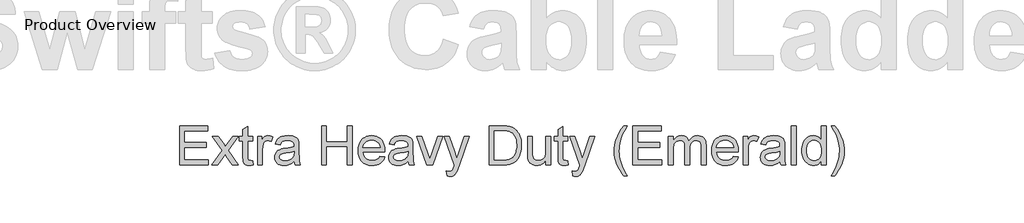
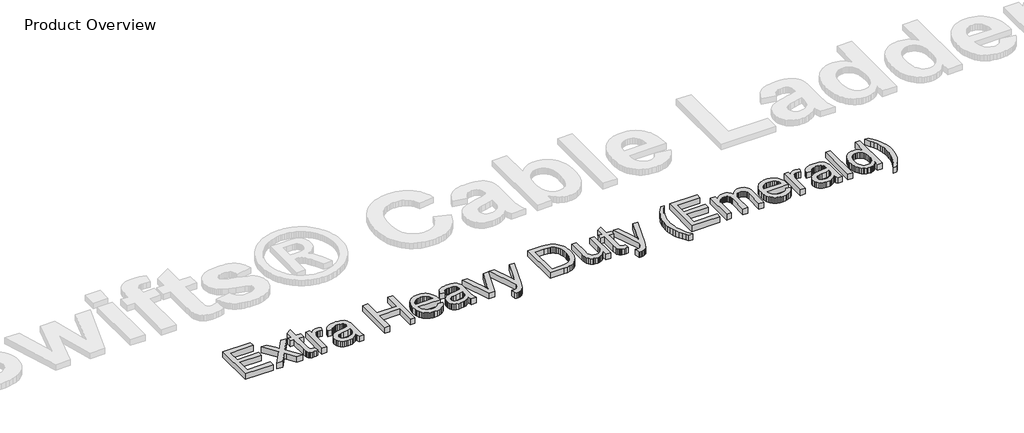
# One storey, part 10 of 11: 1 proxy.
"""IFC4 building model written with IfcOpenShell, lengths in millimetres."""

from ifc_helpers import new_model, si_unit, origin, origin_with_axes, place, context, project, spatial, polyline, outline, extrude, element, save

model = new_model("IFC4")

# Units and contexts
model_context = context("Model", 3, world=origin())
ifc_project = project(units=[si_unit("LENGTHUNIT", "METRE", prefix="MILLI")], contexts=[model_context])

# Site, building, storey
site = spatial("IfcSite", under=ifc_project)
building = spatial("IfcBuilding", under=site)
storey = spatial("IfcBuildingStorey", under=building, Name="Product Overview", Elevation=0.0)

# Proxy
placement = place(None, origin())
element("IfcBuildingElementProxy", 1, Name="1000mm", ObjectType="1000mm", at=placement, inside=storey, context=model_context, shape_type="SweptSolid", body=[
    extrude(outline(polyline([(-6838.0510787, -2802.9625714), (-6838.0510787, -1823.568632), (-6134.1116848, -1823.568632), (-6134.1116848, -1945.9928744), (-6715.6268363, -1945.9928744), (-6715.6268363, -2236.7504502), (-6164.7177454, -2236.7504502), (-6164.7177454, -2359.1746926), (-6715.6268363, -2359.1746926), (-6715.6268363, -2680.538329), (-6118.8086545, -2680.538329), (-6118.8086545, -2802.9625714), (-6838.0510787, -2802.9625714)])), origin_with_axes(), (0.0, 0.0, 1.0), 150.0),
    extrude(outline(polyline([(-6026.9904726, -2802.9625714), (-5765.4042984, -2441.4284805), (-6011.6874423, -2083.7201471), (-5864.3957757, -2083.7201471), (-5745.558181, -2255.879238), (-5690.0846961, -2337.1765865), (-5642.0236166, -2270.7040486), (-5506.6874423, -2083.7201471), (-5359.3957757, -2083.7201471), (-5618.1126317, -2441.4284805), (-5368.9601696, -2802.9625714), (-5516.2518363, -2802.9625714), (-5666.1737113, -2585.6117191), (-5693.6713439, -2545.9194843), (-5879.698806, -2802.9625714), (-6026.9904726, -2802.9625714)])), origin_with_axes(), (0.0, 0.0, 1.0), 150.0),
    extrude(outline(polyline([(-5001.6874423, -2700.8626661), (-4986.384412, -2806.5492191), (-5034.8639338, -2815.336506), (-5077.963484, -2818.2656017), (-5136.7247293, -2813.1845174), (-5160.5012148, -2806.833162), (-5180.541609, -2797.9412646), (-5211.5063344, -2774.4487219), (-5231.7111166, -2744.6197683), (-5238.1969712, -2723.5631573), (-5242.8297245, -2693.3904833), (-5246.5359272, -2605.6969464), (-5246.5359272, -2206.1443896), (-5338.354109, -2206.1443896), (-5338.354109, -2083.7201471), (-5246.5359272, -2083.7201471), (-5246.5359272, -1908.9308479), (-5124.1116848, -1836.9587835), (-5124.1116848, -2083.7201471), (-5001.6874423, -2083.7201471), (-5001.6874423, -2206.1443896), (-5124.1116848, -2206.1443896), (-5124.1116848, -2602.1102986), (-5122.4976933, -2642.4003081), (-5117.6557189, -2665.2352986), (-5109.197208, -2677.8782319), (-5096.7336071, -2687.5920695), (-5079.0693671, -2693.7790368), (-5055.0089386, -2695.8413593), (-5001.6874423, -2700.8626661)])), origin_with_axes(), (0.0, 0.0, 1.0), 150.0),
    extrude(outline(polyline([(-4879.2631999, -2802.9625714), (-4879.2631999, -2083.7201471), (-4772.1419878, -2083.7201471), (-4772.1419878, -2190.1240297), (-4732.5693079, -2128.4336888), (-4713.9486284, -2107.0931348), (-4696.105056, -2092.0889918), (-4659.5212492, -2074.3350856), (-4619.5899045, -2068.4171168), (-4589.2229537, -2070.7783266), (-4558.6168931, -2077.8619558), (-4527.7717226, -2089.6680046), (-4496.6874423, -2106.1964729), (-4537.5752264, -2215.9478933), (-4580.6149992, -2197.1179928), (-4623.6547719, -2190.8413593), (-4660.20869, -2196.8788829), (-4692.877073, -2214.991454), (-4719.2688225, -2243.8041907), (-4736.9928401, -2281.9422115), (-4751.8774281, -2350.3276282), (-4756.8389575, -2424.9299009), (-4756.8389575, -2802.9625714), (-4879.2631999, -2802.9625714)])), origin_with_axes(), (0.0, 0.0, 1.0), 150.0),
    extrude(outline(polyline([(-3961.0813817, -2711.1443896), (-3990.1108118, -2738.3879679), (-4019.5736284, -2761.2976803), (-4049.4698317, -2779.8735266), (-4079.7994215, -2794.115507), (-4110.9061184, -2804.6811734), (-4143.1336426, -2812.228078), (-4210.9511734, -2818.2656017), (-4265.4607467, -2814.6341209), (-4313.2602998, -2803.7396784), (-4354.3498328, -2785.5822743), (-4388.7293458, -2760.1619085), (-4415.8757857, -2729.0925726), (-4435.2661, -2693.9882579), (-4446.9002886, -2654.8489646), (-4450.7783514, -2611.6746926), (-4444.9201601, -2560.9236272), (-4427.3455863, -2514.835204), (-4400.2365072, -2475.382079), (-4365.7748003, -2444.5369085), (-4325.2755697, -2421.2236983), (-4280.0539196, -2404.366454), (-4235.99793, -2394.9813924), (-4174.1282567, -2385.9549956), (-4048.9542511, -2366.5870979), (-4000.6241729, -2355.6478223), (-3961.7987113, -2343.8716623), (-3961.0813817, -2316.6131396), (-3963.1885373, -2286.9336296), (-3969.5100039, -2261.9765392), (-3980.0457816, -2241.7418683), (-3994.7958704, -2226.2296168), (-4020.290958, -2210.7472541), (-4051.3453495, -2199.6884236), (-4087.9590451, -2193.0531254), (-4130.1320446, -2190.8413593), (-4169.3460598, -2192.3133793), (-4203.0605484, -2196.7294393), (-4231.2755105, -2204.0895393), (-4253.9909461, -2214.3936793), (-4272.6564587, -2228.4488551), (-4288.7216516, -2247.0620624), (-4302.186525, -2270.2333011), (-4313.0510787, -2297.9625714), (-4435.4753211, -2282.6595411), (-4426.1575092, -2247.3908384), (-4414.2244333, -2215.7087835), (-4399.6760935, -2187.6133763), (-4382.5124897, -2163.1046168), (-4361.9938758, -2141.689341), (-4337.3805058, -2122.8743848), (-4308.6723796, -2106.6597482), (-4275.8694973, -2093.0454312), (-4239.636883, -2082.2705437), (-4200.6395612, -2074.5741954), (-4158.8775317, -2069.9563865), (-4114.3507946, -2068.4171168), (-4031.5888983, -2073.8568659), (-3996.6414995, -2080.6565522), (-3965.9831336, -2090.176113), (-3916.5172837, -2114.7147612), (-3897.4557455, -2129.0688243), (-3882.1751317, -2144.8127134), (-3859.3999187, -2182.0241836), (-3844.6348855, -2227.9033858), (-3840.1515759, -2270.225829), (-3838.6571393, -2335.0245979), (-3838.6571393, -2487.3375714), (-3837.1029253, -2620.0136486), (-3832.4402833, -2700.0257816), (-3823.2345541, -2752.6000595), (-3808.0510787, -2802.9625714), (-3930.4753211, -2802.9625714), (-3950.0823287, -2760.4010183), (-3961.0813817, -2711.1443896)]), holes=[polyline([(-3961.0813817, -2466.2959047), (-4043.3351696, -2486.6800193), (-4158.5861166, -2503.8361509), (-4222.0996701, -2513.2212125), (-4263.9140048, -2523.6822683), (-4291.3219712, -2537.2517522), (-4311.6164196, -2555.9620979), (-4324.1696867, -2578.3786462), (-4328.354109, -2603.066738), (-4326.0750933, -2622.0909154), (-4319.238046, -2639.4712125), (-4307.8429673, -2655.2076294), (-4291.8898571, -2669.3001661), (-4271.5281591, -2680.9119381), (-4246.9073169, -2689.206061), (-4218.0273305, -2694.1825347), (-4184.8881999, -2695.8413593), (-4151.0541564, -2694.0106745), (-4119.1329916, -2688.5186201), (-4089.1247056, -2679.3651963), (-4061.0292984, -2666.5504028), (-4035.6836545, -2651.1352898), (-4013.9246583, -2634.1809071), (-3995.7523098, -2615.6872547), (-3981.166609, -2595.6543327), (-3972.6931538, -2577.7210941), (-3966.6406857, -2555.9620979), (-3961.7987113, -2500.9668327), (-3961.0813817, -2466.2959047)])]), origin_with_axes(), (0.0, 0.0, 1.0), 150.0),
    extrude(outline(polyline([(-3272.4450181, -2802.9625714), (-3272.4450181, -1823.568632), (-3150.0207757, -1823.568632), (-3150.0207757, -2221.4474199), (-2629.7177454, -2221.4474199), (-2629.7177454, -1823.568632), (-2507.2935029, -1823.568632), (-2507.2935029, -2802.9625714), (-2629.7177454, -2802.9625714), (-2629.7177454, -2343.8716623), (-3150.0207757, -2343.8716623), (-3150.0207757, -2802.9625714), (-3272.4450181, -2802.9625714)])), origin_with_axes(), (0.0, 0.0, 1.0), 150.0),
    extrude(outline(polyline([(-1804.7887681, -2588.7201471), (-1684.7556242, -2604.0231774), (-1703.1596103, -2652.0992013), (-1728.004618, -2694.4664776), (-1759.2906472, -2731.1250063), (-1797.017698, -2762.0747873), (-1840.7972168, -2786.6582686), (-1890.2406502, -2804.2178981), (-1945.3479981, -2814.7536758), (-2006.1192605, -2818.2656017), (-2045.1352628, -2816.7506166), (-2082.0814705, -2812.2056615), (-2116.9578836, -2804.6307362), (-2149.764502, -2794.0258408), (-2180.5013258, -2780.3909753), (-2209.168355, -2763.7261397), (-2235.7655895, -2744.031334), (-2260.2930295, -2721.3065581), (-2282.3172882, -2695.8469634), (-2301.404979, -2667.947701), (-2317.5561021, -2637.6087709), (-2330.7706573, -2604.8301732), (-2341.0486447, -2569.6119078), (-2348.3900643, -2531.9539747), (-2354.2631999, -2449.3191055), (-2348.3302868, -2363.8821677), (-2340.9141454, -2324.9633038), (-2330.5315475, -2288.5775098), (-2317.1824929, -2254.7247858), (-2300.8669819, -2223.4051317), (-2281.5850143, -2194.6185476), (-2259.3365901, -2168.3650335), (-2234.72322, -2144.9397405), (-2208.3464149, -2124.63782), (-2180.2061746, -2107.4592718), (-2150.3024992, -2093.404096), (-2118.6353886, -2082.4722926), (-2085.2048429, -2074.6638616), (-2050.0108621, -2069.978803), (-2013.0534461, -2068.4171168), (-1977.3046557, -2069.9750669), (-1943.2258982, -2074.6489173), (-1910.8171735, -2082.4386678), (-1880.0784816, -2093.3443185), (-1851.0098226, -2107.3658695), (-1823.6111965, -2124.5033207), (-1797.8826032, -2144.7566721), (-1773.8240427, -2168.1259236), (-1752.0519702, -2194.3196603), (-1733.1828407, -2223.046467), (-1717.2166541, -2254.3063436), (-1704.1534106, -2288.0992901), (-1693.9931101, -2324.4253066), (-1686.7357526, -2363.2843931), (-1680.9298666, -2448.6017759), (-1681.6471961, -2481.598935), (-2231.8389575, -2481.598935), (-2224.747856, -2530.4520659), (-2210.6478472, -2573.2377844), (-2189.5389309, -2609.9560906), (-2161.4211071, -2640.6069843), (-2127.84859, -2664.7720233), (-2090.3755934, -2682.0327655), (-2049.0021174, -2692.3892108), (-2003.728162, -2695.8413593), (-1969.8642297, -2694.2423121), (-1938.5707283, -2689.4451708), (-1909.8476578, -2681.4499352), (-1883.6950181, -2670.2566055), (-1860.1128093, -2655.5662942), (-1839.1010314, -2637.080114), (-1820.6596843, -2614.798065), (-1804.7887681, -2588.7201471)]), holes=[polyline([(-2231.8389575, -2359.1746926), (-1803.354109, -2359.1746926), (-1809.6456869, -2324.5336533), (-1819.912466, -2294.4954786), (-1834.1544464, -2269.0601684), (-1852.3716279, -2248.2277229), (-1885.7573405, -2223.1211888), (-1923.7459177, -2205.1879502), (-1966.3373595, -2194.428007), (-2013.5316658, -2190.8413593), (-2056.5789107, -2193.7032053), (-2096.0544523, -2202.2887433), (-2131.9582905, -2216.5979732), (-2164.2904253, -2236.6308952), (-2191.4219209, -2261.4609586), (-2211.7238415, -2290.1616126), (-2225.196187, -2322.7328572), (-2231.8389575, -2359.1746926)])]), origin_with_axes(), (0.0, 0.0, 1.0), 150.0),
    extrude(outline(polyline([(-1099.4147151, -2711.1443896), (-1128.4441451, -2738.3879679), (-1157.9069618, -2761.2976803), (-1187.803165, -2779.8735266), (-1218.1327548, -2794.115507), (-1249.2394517, -2804.6811734), (-1281.466976, -2812.228078), (-1349.2845067, -2818.2656017), (-1403.79408, -2814.6341209), (-1451.5936332, -2803.7396784), (-1492.6831662, -2785.5822743), (-1527.0626791, -2760.1619085), (-1554.2091191, -2729.0925726), (-1573.5994333, -2693.9882579), (-1585.2336219, -2654.8489646), (-1589.1116848, -2611.6746926), (-1583.2534935, -2560.9236272), (-1565.6789196, -2514.835204), (-1538.5698405, -2475.382079), (-1504.1081336, -2444.5369085), (-1463.608903, -2421.2236983), (-1418.3872529, -2404.366454), (-1374.3312634, -2394.9813924), (-1312.4615901, -2385.9549956), (-1187.2875844, -2366.5870979), (-1138.9575063, -2355.6478223), (-1100.1320446, -2343.8716623), (-1099.4147151, -2316.6131396), (-1101.5218706, -2286.9336296), (-1107.8433372, -2261.9765392), (-1118.3791149, -2241.7418683), (-1133.1292037, -2226.2296168), (-1158.6242913, -2210.7472541), (-1189.6786829, -2199.6884236), (-1226.2923784, -2193.0531254), (-1268.4653779, -2190.8413593), (-1307.6793931, -2192.3133793), (-1341.3938817, -2196.7294393), (-1369.6088439, -2204.0895393), (-1392.3242795, -2214.3936793), (-1410.989792, -2228.4488551), (-1427.054985, -2247.0620624), (-1440.5198583, -2270.2333011), (-1451.384412, -2297.9625714), (-1573.8086545, -2282.6595411), (-1564.4908426, -2247.3908384), (-1552.5577667, -2215.7087835), (-1538.0094268, -2187.6133763), (-1520.845823, -2163.1046168), (-1500.3272092, -2141.689341), (-1475.7138391, -2122.8743848), (-1447.0057129, -2106.6597482), (-1414.2028306, -2093.0454312), (-1377.9702164, -2082.2705437), (-1338.9728945, -2074.5741954), (-1297.210865, -2069.9563865), (-1252.6841279, -2068.4171168), (-1169.9222316, -2073.8568659), (-1134.9748328, -2080.6565522), (-1104.316467, -2090.176113), (-1054.8506171, -2114.7147612), (-1035.7890788, -2129.0688243), (-1020.5084651, -2144.8127134), (-997.733252, -2182.0241836), (-982.9682189, -2227.9033858), (-978.4849092, -2270.225829), (-976.9904726, -2335.0245979), (-976.9904726, -2487.3375714), (-975.4362586, -2620.0136486), (-970.7736166, -2700.0257816), (-961.5678874, -2752.6000595), (-946.384412, -2802.9625714), (-1068.8086545, -2802.9625714), (-1088.415662, -2760.4010183), (-1099.4147151, -2711.1443896)]), holes=[polyline([(-1099.4147151, -2466.2959047), (-1181.6685029, -2486.6800193), (-1296.9194499, -2503.8361509), (-1360.4330034, -2513.2212125), (-1402.2473382, -2523.6822683), (-1429.6553046, -2537.2517522), (-1449.9497529, -2555.9620979), (-1462.50302, -2578.3786462), (-1466.6874423, -2603.066738), (-1464.4084266, -2622.0909154), (-1457.5713794, -2639.4712125), (-1446.1763007, -2655.2076294), (-1430.2231904, -2669.3001661), (-1409.8614924, -2680.9119381), (-1385.2406502, -2689.206061), (-1356.3606638, -2694.1825347), (-1323.2215333, -2695.8413593), (-1289.3874897, -2694.0106745), (-1257.4663249, -2688.5186201), (-1227.4580389, -2679.3651963), (-1199.3626317, -2666.5504028), (-1174.0169878, -2651.1352898), (-1152.2579916, -2634.1809071), (-1134.0856431, -2615.6872547), (-1119.4999423, -2595.6543327), (-1111.0264871, -2577.7210941), (-1104.974019, -2555.9620979), (-1100.1320446, -2500.9668327), (-1099.4147151, -2466.2959047)])]), origin_with_axes(), (0.0, 0.0, 1.0), 150.0),
    extrude(outline(polyline([(-632.1940711, -2802.9625714), (-885.1722908, -2083.7201471), (-755.5747529, -2083.7201471), (-602.3053401, -2514.5960941), (-556.1571393, -2659.4966623), (-510.9653779, -2522.725829), (-356.7395257, -2083.7201471), (-227.1419878, -2083.7201471), (-477.0117795, -2802.9625714), (-632.1940711, -2802.9625714)])), origin_with_axes(), (0.0, 0.0, 1.0), 150.0),
    extrude(outline(polyline([(-120.0207757, -3078.4171168), (-135.323806, -2960.5359615), (-101.9679821, -2968.6059189), (-73.1552454, -2971.2959047), (-40.4569736, -2967.9184781), (-15.0515522, -2957.7861983), (4.7347878, -2941.6163948), (20.5758152, -2920.1263971), (34.0855217, -2888.5041197), (54.051194, -2829.9819843), (63.615588, -2800.332363), (-196.5359272, -2083.7201471), (-67.416609, -2083.7201471), (70.5497736, -2483.0335941), (95.955195, -2560.9834047), (118.6108531, -2642.7589729), (166.6719327, -2501.6841623), (308.4640728, -2083.7201471), (436.6269516, -2083.7201471), (186.2789402, -2820.1784805), (149.0973588, -2918.0939634), (121.2410614, -2979.9038593), (87.945015, -3030.8940344), (69.6381673, -3050.5159864), (50.2254364, -3066.2225146), (29.2883803, -3078.2527288), (6.4085567, -3086.845739), (-18.4140344, -3092.0015451), (-45.1793931, -3093.7201471), (-80.6274281, -3089.8943896), (-120.0207757, -3078.4171168)])), origin_with_axes(), (0.0, 0.0, 1.0), 150.0),
    extrude(outline(polyline([(935.8883152, -2802.9625714), (935.8883152, -1823.568632), (1273.7505311, -1823.568632), (1374.7146647, -1827.0955022), (1448.5398304, -1837.676113), (1489.0988384, -1849.3177738), (1526.6091959, -1864.8748583), (1561.0709028, -1884.3473666), (1592.4839592, -1907.7352986), (1628.783823, -1942.7648915), (1660.2118238, -1982.3375714), (1686.7679613, -2026.4533384), (1708.4522357, -2075.1121926), (1725.2945356, -2127.8658029), (1737.3247499, -2184.2658384), (1744.5428784, -2244.3122991), (1746.9489213, -2308.005185), (1745.3199855, -2362.1411491), (1740.4331779, -2413.1238522), (1732.2884987, -2460.953294), (1720.8859478, -2505.6294748), (1691.1167717, -2584.3862811), (1673.4525316, -2618.1829638), (1653.9351902, -2648.2584994), (1611.1345274, -2698.6807887), (1564.5081069, -2737.0878081), (1510.9773896, -2765.5717688), (1447.4638361, -2786.224882), (1373.8478915, -2798.778149), (1290.0100008, -2802.9625714), (935.8883152, -2802.9625714)]), holes=[polyline([(1058.3125577, -2680.538329), (1274.9460804, -2680.538329), (1364.5524961, -2676.1147968), (1401.2409135, -2670.5853815), (1432.5194705, -2662.8442002), (1483.808533, -2641.5036462), (1505.0594208, -2628.0985503), (1523.381213, -2612.8702418), (1545.9696215, -2588.3241214), (1565.9128773, -2559.8775217), (1583.2109804, -2527.5304425), (1597.8639308, -2491.2828839), (1609.5280081, -2451.0601241), (1617.8594918, -2406.7874412), (1622.8583821, -2358.4648352), (1624.5246789, -2306.0923062), (1621.259335, -2235.0169038), (1611.4633034, -2172.6690108), (1595.1365841, -2119.0486272), (1572.279177, -2074.1557532), (1544.7441835, -2036.9741718), (1514.3847049, -2006.4876661), (1481.2007413, -1982.6962361), (1445.1922925, -1965.599882), (1414.0781235, -1957.0218162), (1374.7744421, -1950.8946263), (1271.5985425, -1945.9928744), (1058.3125577, -1945.9928744), (1058.3125577, -2680.538329)])]), origin_with_axes(), (0.0, 0.0, 1.0), 150.0),
    extrude(outline(polyline([(2359.0701334, -2802.9625714), (2359.0701334, -2679.3427797), (2337.83419, -2711.9028161), (2314.775034, -2740.1215143), (2289.8926654, -2763.9988743), (2263.1870842, -2783.5348962), (2234.6582904, -2798.7295798), (2204.306284, -2809.5829253), (2172.131065, -2816.0949326), (2138.1326334, -2818.2656017), (2078.504615, -2812.1683005), (2050.2373475, -2804.5466741), (2023.0012414, -2793.8763971), (1976.4345984, -2766.3787646), (1958.307083, -2750.2986272), (1943.6167717, -2732.6642759), (1921.5289994, -2691.7167144), (1907.1525198, -2642.519863), (1901.7725482, -2596.1325524), (1899.9792243, -2528.7035752), (1899.9792243, -2083.7201471), (2022.4034667, -2083.7201471), (2022.4034667, -2471.0781017), (2024.2565681, -2548.5496926), (2029.8158721, -2595.8934426), (2037.1460833, -2617.9587983), (2047.6594445, -2637.528445), (2061.3559555, -2654.6023826), (2078.2356164, -2669.1806111), (2097.7903187, -2680.8446884), (2119.511954, -2689.1761722), (2143.4005223, -2694.1750625), (2169.4560236, -2695.8413593), (2196.2886319, -2694.1377016), (2222.2694114, -2689.0267286), (2247.398362, -2680.5084402), (2271.6754838, -2668.5828365), (2293.7856726, -2653.720665), (2312.4138242, -2636.3926732), (2327.5599387, -2616.598861), (2339.224016, -2594.3392286), (2347.9066924, -2568.1940611), (2354.1086041, -2536.7436438), (2359.0701334, -2457.92706), (2359.0701334, -2083.7201471), (2481.4943758, -2083.7201471), (2481.4943758, -2802.9625714), (2359.0701334, -2802.9625714)])), origin_with_axes(), (0.0, 0.0, 1.0), 150.0),
    extrude(outline(polyline([(2909.9792243, -2700.8626661), (2925.2822546, -2806.5492191), (2876.8027328, -2815.336506), (2833.7031827, -2818.2656017), (2774.9419374, -2813.1845174), (2751.1654518, -2806.833162), (2731.1250577, -2797.9412646), (2700.1603323, -2774.4487219), (2679.9555501, -2744.6197683), (2673.4696954, -2723.5631573), (2668.8369421, -2693.3904833), (2665.1307395, -2605.6969464), (2665.1307395, -2206.1443896), (2573.3125577, -2206.1443896), (2573.3125577, -2083.7201471), (2665.1307395, -2083.7201471), (2665.1307395, -1908.9308479), (2787.5549819, -1836.9587835), (2787.5549819, -2083.7201471), (2909.9792243, -2083.7201471), (2909.9792243, -2206.1443896), (2787.5549819, -2206.1443896), (2787.5549819, -2602.1102986), (2789.1689734, -2642.4003081), (2794.0109478, -2665.2352986), (2802.4694587, -2677.8782319), (2814.9330596, -2687.5920695), (2832.5972996, -2693.7790368), (2856.6577281, -2695.8413593), (2909.9792243, -2700.8626661)])), origin_with_axes(), (0.0, 0.0, 1.0), 150.0),
    extrude(outline(polyline([(3032.4034667, -3078.4171168), (3017.1004364, -2960.5359615), (3050.4562603, -2968.6059189), (3079.2689971, -2971.2959047), (3111.9672688, -2967.9184781), (3137.3726902, -2957.7861983), (3157.1590302, -2941.6163948), (3173.0000577, -2920.1263971), (3186.5097641, -2888.5041197), (3206.4754364, -2829.9819843), (3216.0398304, -2800.332363), (2955.8883152, -2083.7201471), (3085.0076334, -2083.7201471), (3222.974016, -2483.0335941), (3248.3794374, -2560.9834047), (3271.0350955, -2642.7589729), (3319.0961751, -2501.6841623), (3460.8883152, -2083.7201471), (3589.051194, -2083.7201471), (3338.7031827, -2820.1784805), (3301.5216012, -2918.0939634), (3273.6653039, -2979.9038593), (3240.3692575, -3030.8940344), (3222.0624097, -3050.5159864), (3202.6496789, -3066.2225146), (3181.7126228, -3078.2527288), (3158.8327991, -3086.845739), (3134.010208, -3092.0015451), (3107.2448493, -3093.7201471), (3071.7968143, -3089.8943896), (3032.4034667, -3078.4171168)])), origin_with_axes(), (0.0, 0.0, 1.0), 150.0),
    extrude(outline(polyline([(4317.8580122, -3078.4171168), (4268.4369954, -3014.4701767), (4222.9911798, -2945.2927087), (4181.5205655, -2870.8847127), (4144.0251524, -2791.2461888), (4112.9558164, -2708.2451826), (4090.7634336, -2623.7497399), (4077.4480039, -2537.7598607), (4073.0095274, -2450.2755449), (4076.3271765, -2373.3867842), (4086.2801239, -2298.1419038), (4102.8683697, -2224.5409035), (4126.0919137, -2152.5837835), (4161.3905051, -2070.060997), (4205.1177186, -1987.717543), (4257.2735543, -1905.5534213), (4317.8580122, -1823.568632), (4409.676194, -1823.568632), (4337.6443522, -1939.9553507), (4295.1425766, -2017.4867191), (4256.0481164, -2109.5440108), (4226.2789402, -2205.42706), (4212.7841782, -2266.5943481), (4203.1450624, -2327.9110799), (4197.3615929, -2389.3772553), (4195.4337698, -2450.9928744), (4198.7813077, -2529.47321), (4208.8239213, -2607.9386012), (4225.5616107, -2686.3890481), (4248.9943758, -2764.8245505), (4279.1222167, -2843.2451087), (4315.9451334, -2921.6507224), (4359.4631258, -3000.0413918), (4409.676194, -3078.4171168), (4317.8580122, -3078.4171168)])), origin_with_axes(), (0.0, 0.0, 1.0), 150.0),
    extrude(outline(polyline([(4547.4034667, -2802.9625714), (4547.4034667, -1823.568632), (5251.3428607, -1823.568632), (5251.3428607, -1945.9928744), (4669.8277092, -1945.9928744), (4669.8277092, -2236.7504502), (5220.7368001, -2236.7504502), (5220.7368001, -2359.1746926), (4669.8277092, -2359.1746926), (4669.8277092, -2680.538329), (5266.645891, -2680.538329), (5266.645891, -2802.9625714), (4547.4034667, -2802.9625714)])), origin_with_axes(), (0.0, 0.0, 1.0), 150.0),
    extrude(outline(polyline([(5434.9792243, -2802.9625714), (5434.9792243, -2083.7201471), (5557.4034667, -2083.7201471), (5557.4034667, -2202.0795221), (5574.4998209, -2173.4237012), (5594.2263834, -2147.7119203), (5616.5831542, -2124.9441794), (5641.5701334, -2105.1204786), (5668.783823, -2089.0627578), (5697.8207253, -2077.5929573), (5728.6808401, -2070.7110769), (5761.3641675, -2068.4171168), (5797.0961455, -2070.75591), (5829.4506969, -2077.7722897), (5858.4278216, -2089.4662557), (5884.0275198, -2105.8378081), (5906.1750695, -2126.4236716), (5924.7957489, -2150.7605709), (5939.8895581, -2178.8485059), (5951.4564971, -2210.6874767), (5972.9838556, -2177.3428611), (5996.0803725, -2148.4441942), (6020.7460478, -2123.9914761), (6046.9808815, -2103.9847068), (6074.7848736, -2088.4238862), (6104.158024, -2077.3090143), (6135.1003329, -2070.6400912), (6167.6118001, -2068.4171168), (6216.6218468, -2072.1158473), (6259.639203, -2083.2120387), (6296.6638686, -2101.705691), (6327.6958436, -2127.5968043), (6352.2270197, -2161.1842659), (6369.7492882, -2202.7669629), (6380.2626494, -2252.3448956), (6383.7671031, -2309.9180638), (6383.7671031, -2802.9625714), (6261.3428607, -2802.9625714), (6261.3428607, -2362.5222305), (6258.5034312, -2301.4595529), (6249.9851429, -2260.3027702), (6234.0245605, -2232.1176968), (6208.8582489, -2209.9701471), (6176.4887532, -2195.6235562), (6138.9186183, -2190.8413593), (6104.2252737, -2193.9049542), (6072.595524, -2203.095739), (6044.0293693, -2218.4137137), (6018.5268096, -2239.8588782), (5997.5523925, -2268.058896), (5982.5706661, -2303.6414303), (5973.5816302, -2346.6064812), (5970.5852849, -2396.9540486), (5970.5852849, -2802.9625714), (5848.1610425, -2802.9625714), (5848.1610425, -2348.8929691), (5846.3901352, -2311.8010539), (5841.0774132, -2279.670668), (5832.2228767, -2252.5018114), (5819.8265255, -2230.2944843), (5803.3951956, -2213.0337421), (5782.4357229, -2200.7046405), (5756.9481075, -2193.3071796), (5726.9323493, -2190.8413593), (5702.8868652, -2192.4852395), (5679.7679317, -2197.4168801), (5657.5755489, -2205.6362811), (5636.3097167, -2217.1434426), (5616.941819, -2231.8188095), (5600.4432395, -2249.5428271), (5586.8139781, -2270.3154951), (5576.0540349, -2294.1368138), (5567.8944114, -2322.2770541), (5562.0661088, -2356.0064871), (5557.4034667, -2440.2329312), (5557.4034667, -2802.9625714), (5434.9792243, -2802.9625714)])), origin_with_axes(), (0.0, 0.0, 1.0), 150.0),
    extrude(outline(polyline([(7070.9688077, -2588.7201471), (7191.0019516, -2604.0231774), (7172.5979654, -2652.0992013), (7147.7529578, -2694.4664776), (7116.4669285, -2731.1250063), (7078.7398777, -2762.0747873), (7034.9603589, -2786.6582686), (6985.5169256, -2804.2178981), (6930.4095777, -2814.7536758), (6869.6383152, -2818.2656017), (6830.6223129, -2816.7506166), (6793.6761052, -2812.2056615), (6758.7996922, -2804.6307362), (6725.9930738, -2794.0258408), (6695.25625, -2780.3909753), (6666.5892208, -2763.7261397), (6639.9919862, -2744.031334), (6615.4645463, -2721.3065581), (6593.4402876, -2695.8469634), (6574.3525967, -2667.947701), (6558.2014737, -2637.6087709), (6544.9869185, -2604.8301732), (6534.7089311, -2569.6119078), (6527.3675115, -2531.9539747), (6521.4943758, -2449.3191055), (6527.427289, -2363.8821677), (6534.8434304, -2324.9633038), (6545.2260283, -2288.5775098), (6558.5750828, -2254.7247858), (6574.8905939, -2223.4051317), (6594.1725615, -2194.6185476), (6616.4209857, -2168.3650335), (6641.0343557, -2144.9397405), (6667.4111609, -2124.63782), (6695.5514012, -2107.4592718), (6725.4550766, -2093.404096), (6757.1221872, -2082.4722926), (6790.5527328, -2074.6638616), (6825.7467137, -2069.978803), (6862.7041296, -2068.4171168), (6898.45292, -2069.9750669), (6932.5316776, -2074.6489173), (6964.9404023, -2082.4386678), (6995.6790941, -2093.3443185), (7024.7477531, -2107.3658695), (7052.1463793, -2124.5033207), (7077.8749726, -2144.7566721), (7101.933533, -2168.1259236), (7123.7056056, -2194.3196603), (7142.5747351, -2223.046467), (7158.5409216, -2254.3063436), (7171.6041651, -2288.0992901), (7181.7644657, -2324.4253066), (7189.0218232, -2363.2843931), (7194.8277092, -2448.6017759), (7194.1103796, -2481.598935), (6643.9186183, -2481.598935), (6651.0097197, -2530.4520659), (6665.1097286, -2573.2377844), (6686.2186449, -2609.9560906), (6714.3364686, -2640.6069843), (6747.9089858, -2664.7720233), (6785.3819824, -2682.0327655), (6826.7554583, -2692.3892108), (6872.0294137, -2695.8413593), (6905.893346, -2694.2423121), (6937.1868474, -2689.4451708), (6965.909918, -2681.4499352), (6992.0625577, -2670.2566055), (7015.6447665, -2655.5662942), (7036.6565444, -2637.080114), (7055.0978915, -2614.798065), (7070.9688077, -2588.7201471)]), holes=[polyline([(6643.9186183, -2359.1746926), (7072.4034667, -2359.1746926), (7066.1118889, -2324.5336533), (7055.8451097, -2294.4954786), (7041.6031294, -2269.0601684), (7023.3859478, -2248.2277229), (6990.0002352, -2223.1211888), (6952.011658, -2205.1879502), (6909.4202163, -2194.428007), (6862.2259099, -2190.8413593), (6819.178665, -2193.7032053), (6779.7031235, -2202.2887433), (6743.7992853, -2216.5979732), (6711.4671505, -2236.6308952), (6684.3356548, -2261.4609586), (6664.0337343, -2290.1616126), (6650.5613887, -2322.7328572), (6643.9186183, -2359.1746926)])]), origin_with_axes(), (0.0, 0.0, 1.0), 150.0),
    extrude(outline(polyline([(7317.2519516, -2802.9625714), (7317.2519516, -2083.7201471), (7424.3731637, -2083.7201471), (7424.3731637, -2190.1240297), (7463.9458436, -2128.4336888), (7482.5665231, -2107.0931348), (7500.4100955, -2092.0889918), (7536.9939024, -2074.3350856), (7576.9252471, -2068.4171168), (7607.2921978, -2070.7783266), (7637.8982584, -2077.8619558), (7668.7434289, -2089.6680046), (7699.8277092, -2106.1964729), (7658.9399251, -2215.9478933), (7615.9001524, -2197.1179928), (7572.8603796, -2190.8413593), (7536.3064615, -2196.8788829), (7503.6380785, -2214.991454), (7477.246329, -2243.8041907), (7459.5223114, -2281.9422115), (7444.6377234, -2350.3276282), (7439.676194, -2424.9299009), (7439.676194, -2802.9625714), (7317.2519516, -2802.9625714)])), origin_with_axes(), (0.0, 0.0, 1.0), 150.0),
    extrude(outline(polyline([(8235.4337698, -2711.1443896), (8206.4043397, -2738.3879679), (8176.9415231, -2761.2976803), (8147.0453199, -2779.8735266), (8116.71573, -2794.115507), (8085.6090332, -2804.6811734), (8053.3815089, -2812.228078), (7985.5639781, -2818.2656017), (7931.0544048, -2814.6341209), (7883.2548517, -2803.7396784), (7842.1653187, -2785.5822743), (7807.7858058, -2760.1619085), (7780.6393658, -2729.0925726), (7761.2490515, -2693.9882579), (7749.6148629, -2654.8489646), (7745.7368001, -2611.6746926), (7751.5949914, -2560.9236272), (7769.1695652, -2514.835204), (7796.2786443, -2475.382079), (7830.7403512, -2444.5369085), (7871.2395818, -2421.2236983), (7916.4612319, -2404.366454), (7960.5172215, -2394.9813924), (8022.3868948, -2385.9549956), (8147.5609005, -2366.5870979), (8195.8909786, -2355.6478223), (8234.7164402, -2343.8716623), (8235.4337698, -2316.6131396), (8233.3266142, -2286.9336296), (8227.0051476, -2261.9765392), (8216.4693699, -2241.7418683), (8201.7192811, -2226.2296168), (8176.2241935, -2210.7472541), (8145.169802, -2199.6884236), (8108.5561064, -2193.0531254), (8066.3831069, -2190.8413593), (8027.1690917, -2192.3133793), (7993.4546031, -2196.7294393), (7965.239641, -2204.0895393), (7942.5242054, -2214.3936793), (7923.8586928, -2228.4488551), (7907.7934999, -2247.0620624), (7894.3286266, -2270.2333011), (7883.4640728, -2297.9625714), (7761.0398304, -2282.6595411), (7770.3576423, -2247.3908384), (7782.2907182, -2215.7087835), (7796.839058, -2187.6133763), (7814.0026618, -2163.1046168), (7834.5212757, -2141.689341), (7859.1346457, -2122.8743848), (7887.8427719, -2106.6597482), (7920.6456542, -2093.0454312), (7956.8782685, -2082.2705437), (7995.8755903, -2074.5741954), (8037.6376198, -2069.9563865), (8082.1643569, -2068.4171168), (8164.9262532, -2073.8568659), (8199.873652, -2080.6565522), (8230.5320179, -2090.176113), (8279.9978678, -2114.7147612), (8299.059406, -2129.0688243), (8314.3400198, -2144.8127134), (8337.1152328, -2182.0241836), (8351.880266, -2227.9033858), (8356.3635757, -2270.225829), (8357.8580122, -2335.0245979), (8357.8580122, -2487.3375714), (8359.4122262, -2620.0136486), (8364.0748683, -2700.0257816), (8373.2805974, -2752.6000595), (8388.4640728, -2802.9625714), (8266.0398304, -2802.9625714), (8246.4328228, -2760.4010183), (8235.4337698, -2711.1443896)]), holes=[polyline([(8235.4337698, -2466.2959047), (8153.1799819, -2486.6800193), (8037.9290349, -2503.8361509), (7974.4154814, -2513.2212125), (7932.6011467, -2523.6822683), (7905.1931803, -2537.2517522), (7884.8987319, -2555.9620979), (7872.3454649, -2578.3786462), (7868.1610425, -2603.066738), (7870.4400583, -2622.0909154), (7877.2771055, -2639.4712125), (7888.6721842, -2655.2076294), (7904.6252944, -2669.3001661), (7924.9869924, -2680.9119381), (7949.6078346, -2689.206061), (7978.487821, -2694.1825347), (8011.6269516, -2695.8413593), (8045.4609952, -2694.0106745), (8077.3821599, -2688.5186201), (8107.3904459, -2679.3651963), (8135.4858531, -2666.5504028), (8160.8314971, -2651.1352898), (8182.5904933, -2634.1809071), (8200.7628417, -2615.6872547), (8215.3485425, -2595.6543327), (8223.8219978, -2577.7210941), (8229.8744658, -2555.9620979), (8234.7164402, -2500.9668327), (8235.4337698, -2466.2959047)])]), origin_with_axes(), (0.0, 0.0, 1.0), 150.0),
    extrude(outline(polyline([(8526.1913455, -2802.9625714), (8526.1913455, -1823.568632), (8648.615588, -1823.568632), (8648.615588, -2802.9625714), (8526.1913455, -2802.9625714)])), origin_with_axes(), (0.0, 0.0, 1.0), 150.0),
    extrude(outline(polyline([(9276.0398304, -2802.9625714), (9276.0398304, -2687.4725146), (9258.6931581, -2718.1271444), (9239.4111905, -2744.6944902), (9218.1939275, -2767.174552), (9195.0413692, -2785.5673299), (9169.9535156, -2799.8728238), (9142.9303666, -2810.0910337), (9113.9719223, -2816.2219597), (9083.0781827, -2818.2656017), (9042.6686183, -2815.3066173), (9003.9328228, -2806.4296642), (8966.8707963, -2791.6347423), (8931.4825387, -2770.9218517), (8898.8739331, -2744.9111835), (8870.1508626, -2714.2229289), (8845.3133271, -2678.8570878), (8824.3613266, -2638.8136604), (8807.7282478, -2594.8548092), (8795.8474772, -2547.7426968), (8788.7190148, -2497.4773234), (8786.3428607, -2444.0586888), (8788.5322102, -2391.6189102), (8795.1002589, -2341.6598962), (8806.0470066, -2294.1816469), (8821.3724535, -2249.1841623), (8841.0691273, -2207.9825465), (8865.1295558, -2171.8919038), (8893.553739, -2140.912234), (8926.341677, -2115.0435373), (8962.3351814, -2094.6444783), (9000.3760638, -2080.0737219), (9040.4643243, -2071.3312681), (9082.599963, -2068.4171168), (9113.4152447, -2070.5018558), (9142.49698, -2076.7560728), (9169.8451689, -2087.1797678), (9195.4598114, -2101.7729407), (9219.0569646, -2119.6987071), (9240.3526855, -2140.1201826), (9259.3469741, -2163.0373672), (9276.0398304, -2188.4502608), (9276.0398304, -1823.568632), (9398.4640728, -1823.568632), (9398.4640728, -2802.9625714), (9276.0398304, -2802.9625714)]), holes=[polyline([(8908.7671031, -2443.5804691), (8912.2192516, -2502.9469612), (8922.5756969, -2554.3182177), (8939.8364391, -2597.6942386), (8964.0014781, -2633.075024), (8992.859048, -2660.5352957), (9024.1973825, -2680.1497754), (9058.0164817, -2691.9184633), (9094.3163455, -2695.8413593), (9130.7880696, -2692.0977957), (9164.4054199, -2680.867105), (9195.1683963, -2662.1492872), (9223.0769989, -2635.9443422), (9246.2482377, -2602.043049), (9262.7991225, -2560.2361864), (9272.7296534, -2510.5237545), (9276.0398304, -2452.9057532), (9272.669876, -2389.7359201), (9262.5600127, -2335.5625951), (9245.7102405, -2290.3857781), (9222.1205596, -2254.2054691), (9193.5992379, -2226.483671), (9161.9545439, -2206.6823867), (9127.1864775, -2194.8016161), (9089.2950387, -2190.8413593), (9052.2778453, -2194.6447003), (9018.4587461, -2206.0547234), (8987.8377411, -2225.0714285), (8960.4148304, -2251.6948157), (8937.8189497, -2286.5077152), (8921.6790349, -2330.0929573), (8911.9950861, -2382.4505419), (8908.7671031, -2443.5804691)])]), origin_with_axes(), (0.0, 0.0, 1.0), 150.0),
    extrude(outline(polyline([(9612.7064971, -3078.4171168), (9520.8883152, -3078.4171168), (9571.1013834, -3000.0413918), (9614.6193758, -2921.6507224), (9651.4422925, -2843.2451087), (9681.5701334, -2764.8245505), (9705.0028986, -2686.3890481), (9721.740588, -2607.9386012), (9731.7832016, -2529.47321), (9735.1307395, -2450.9928744), (9733.2029163, -2389.7807532), (9727.4194469, -2328.8077418), (9717.7803311, -2268.0738403), (9704.285569, -2207.5790486), (9675.05439, -2111.516667), (9636.1392622, -2019.3995979), (9593.4581542, -1941.0313451), (9520.8883152, -1823.568632), (9612.7064971, -1823.568632), (9673.2909549, -1905.5534213), (9725.4467906, -1987.717543), (9769.1740042, -2070.060997), (9804.4725955, -2152.5837835), (9827.6961396, -2224.5409035), (9844.2843853, -2298.1419038), (9854.2373328, -2373.3867842), (9857.5549819, -2450.2755449), (9853.0940888, -2537.7598607), (9839.7114095, -2623.7497399), (9817.4069439, -2708.2451826), (9786.1806921, -2791.2461888), (9748.5731963, -2870.8847127), (9707.1249985, -2945.2927087), (9661.8360987, -3014.4701767), (9612.7064971, -3078.4171168)])), origin_with_axes(), (0.0, 0.0, 1.0), 150.0),
])

save(model, "model.ifc")
